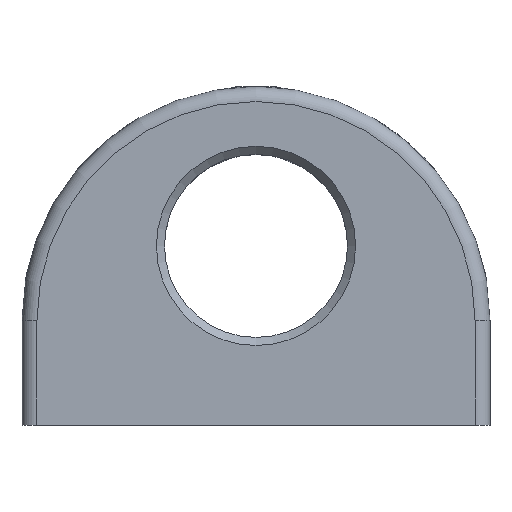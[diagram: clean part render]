
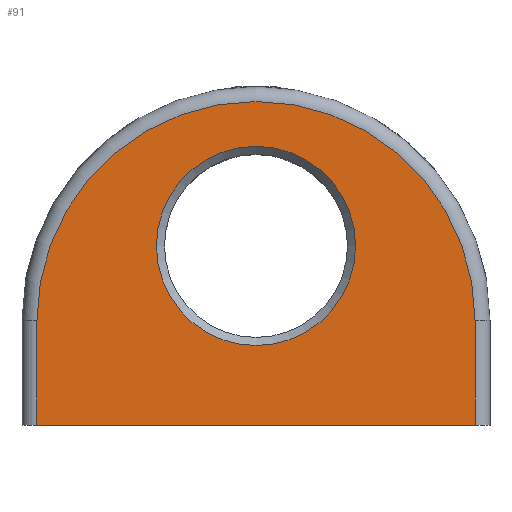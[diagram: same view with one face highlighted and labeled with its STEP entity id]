
A CAD part, top view. The second image highlights one B-rep face of the part: STEP entity #91.
In plain terms, the highlighted planar face has unit normal (0, 0, 1).
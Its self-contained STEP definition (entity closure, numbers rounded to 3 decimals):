
#91 = ADVANCED_FACE( '', ( #171, #172 ), #173, .F. );
#171 = FACE_BOUND( '', #308, .T. );
#172 = FACE_OUTER_BOUND( '', #309, .T. );
#173 = PLANE( '', #310 );
#308 = EDGE_LOOP( '', ( #513 ) );
#309 = EDGE_LOOP( '', ( #514, #515, #516, #517 ) );
#310 = AXIS2_PLACEMENT_3D( '', #518, #519, #520 );
#513 = ORIENTED_EDGE( '', *, *, #799, .T. );
#514 = ORIENTED_EDGE( '', *, *, #836, .F. );
#515 = ORIENTED_EDGE( '', *, *, #806, .F. );
#516 = ORIENTED_EDGE( '', *, *, #837, .T. );
#517 = ORIENTED_EDGE( '', *, *, #838, .T. );
#518 = CARTESIAN_POINT( '', ( -22., 10.5, 7. ) );
#519 = DIRECTION( '', ( 0., 0., -1. ) );
#520 = DIRECTION( '', ( -1., 0., 0. ) );
#799 = EDGE_CURVE( '', #916, #916, #917, .T. );
#806 = EDGE_CURVE( '', #929, #931, #932, .T. );
#836 = EDGE_CURVE( '', #931, #984, #985, .T. );
#837 = EDGE_CURVE( '', #929, #986, #987, .T. );
#838 = EDGE_CURVE( '', #986, #984, #988, .T. );
#916 = VERTEX_POINT( '', #1228 );
#917 = CIRCLE( '', #1229, 10. );
#929 = VERTEX_POINT( '', #1241 );
#931 = VERTEX_POINT( '', #1243 );
#932 = CIRCLE( '', #1244, 22. );
#984 = VERTEX_POINT( '', #1353 );
#985 = LINE( '', #1354, #1355 );
#986 = VERTEX_POINT( '', #1356 );
#987 = LINE( '', #1357, #1358 );
#988 = LINE( '', #1359, #1360 );
#1228 = CARTESIAN_POINT( '', ( -10., 18., 7. ) );
#1229 = AXIS2_PLACEMENT_3D( '', #1567, #1568, #1569 );
#1241 = CARTESIAN_POINT( '', ( -22., 10.5, 7. ) );
#1243 = CARTESIAN_POINT( '', ( 22., 10.5, 7. ) );
#1244 = AXIS2_PLACEMENT_3D( '', #1588, #1589, #1590 );
#1353 = CARTESIAN_POINT( '', ( 22., 0., 7. ) );
#1354 = CARTESIAN_POINT( '', ( 22., 10.5, 7. ) );
#1355 = VECTOR( '', #1647, 1000. );
#1356 = CARTESIAN_POINT( '', ( -22., 0., 7. ) );
#1357 = CARTESIAN_POINT( '', ( -22., 10.5, 7. ) );
#1358 = VECTOR( '', #1648, 1000. );
#1359 = CARTESIAN_POINT( '', ( -22., 0., 7. ) );
#1360 = VECTOR( '', #1649, 1000. );
#1567 = CARTESIAN_POINT( '', ( 0., 18., 7. ) );
#1568 = DIRECTION( '', ( 0., 0., -1. ) );
#1569 = DIRECTION( '', ( -1., 0., 0. ) );
#1588 = CARTESIAN_POINT( '', ( 0., 10.5, 7. ) );
#1589 = DIRECTION( '', ( 0., 0., -1. ) );
#1590 = DIRECTION( '', ( -1., 0., 0. ) );
#1647 = DIRECTION( '', ( 0., -1., 0. ) );
#1648 = DIRECTION( '', ( 0., -1., 0. ) );
#1649 = DIRECTION( '', ( 1., 0., 0. ) );
